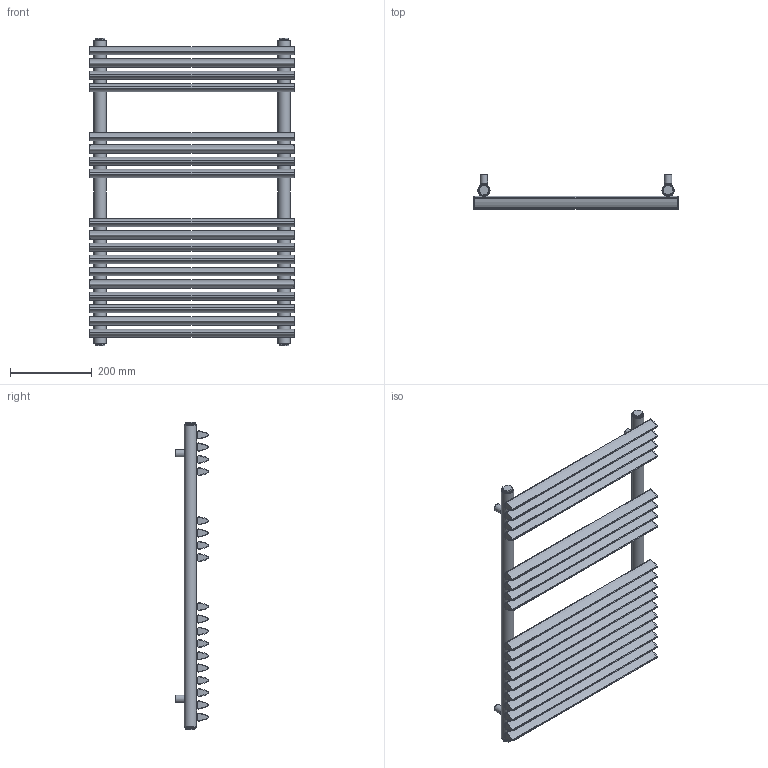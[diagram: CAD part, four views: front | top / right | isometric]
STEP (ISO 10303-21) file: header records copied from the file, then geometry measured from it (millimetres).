
FILE_DESCRIPTION(/* description */ (''),/* implementation_level */ '2;1');
FILE_NAME(/* name */ 'C:\Grzejniki\13DLUXRAD\łazienkowe\CALIDO\CALIDO 740x500.iam.stp',/* time_stamp */ '2016-06-28T17:34:30+02:00',/* author */ ('m.szydziak'),/* organization */ (''),/* preprocessor_version */ 'ST-DEVELOPER v16.5',/* originating_system */ 'Autodesk Inventor 2017',/* authorisation */ '');
FILE_SCHEMA (('AUTOMOTIVE_DESIGN { 1 0 10303 214 3 1 1 }'));
Length unit declared in the file: millimetre
Products named in the file (5): CALIDO 740x500; fi30x1,5x740; 30x20x1,2x500; uchwyt stały; korek
Assembly tree (28 placements, depth 2):
  CALIDO 740x500
    fi30x1,5x740  x2
    30x20x1,2x500  x18
    uchwyt stały  x4
    korek  x4
Bounding box: 500 x 81.99 x 752 mm (x, y, z)
Volume: 1047423.4 mm3; surface area: 1667898 mm2
Topology: 28 solids, 28 shells, 416 faces, 1110 edges, 790 vertices
Faces by surface type: cylinder 272, plane 144
Full cylindrical faces by diameter (mm): 5 x36, 6 x36, 15 x4, 18 x4, 18.631 x4, 24 x4, 27 x2, 30 x2
Entity records: 3475 total; most frequent: CARTESIAN_POINT 1710, DIRECTION 312, ORIENTED_EDGE 278, EDGE_CURVE 139, AXIS2_PLACEMENT_3D 139, EDGE_LOOP 134, VERTEX_POINT 117, FACE_BOUND 73
